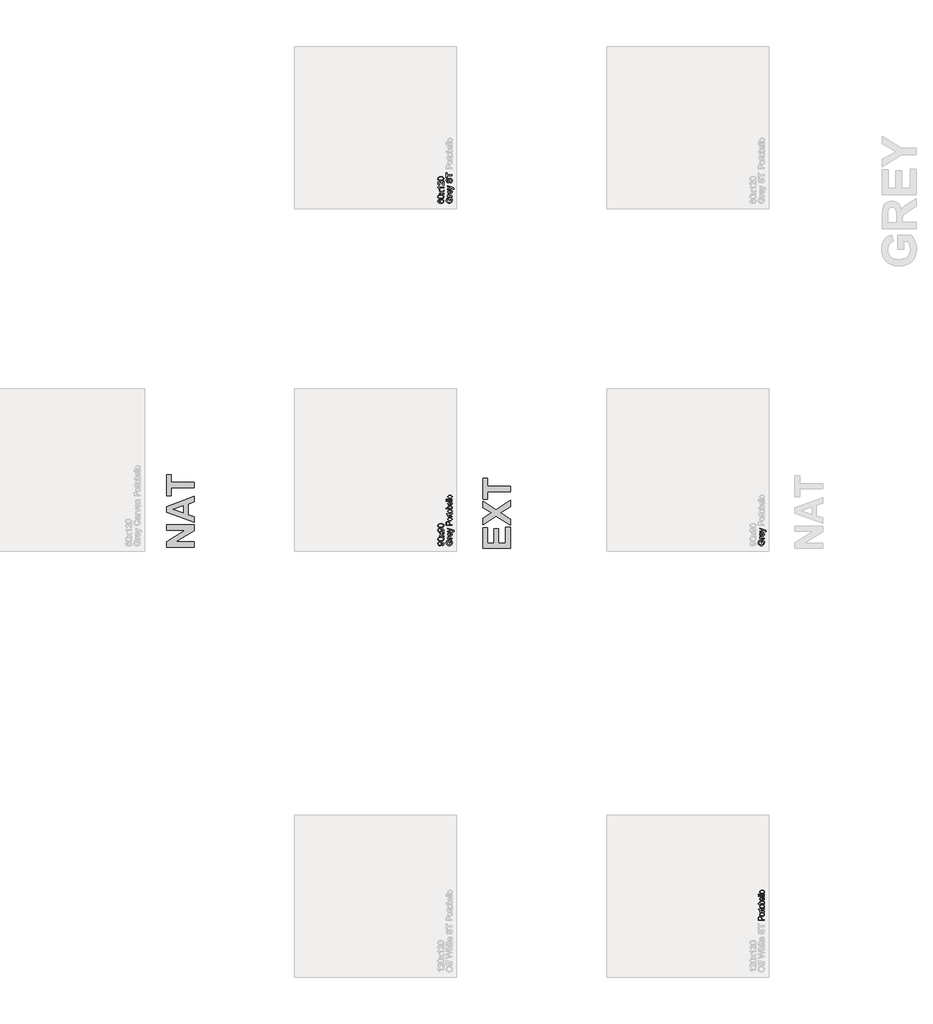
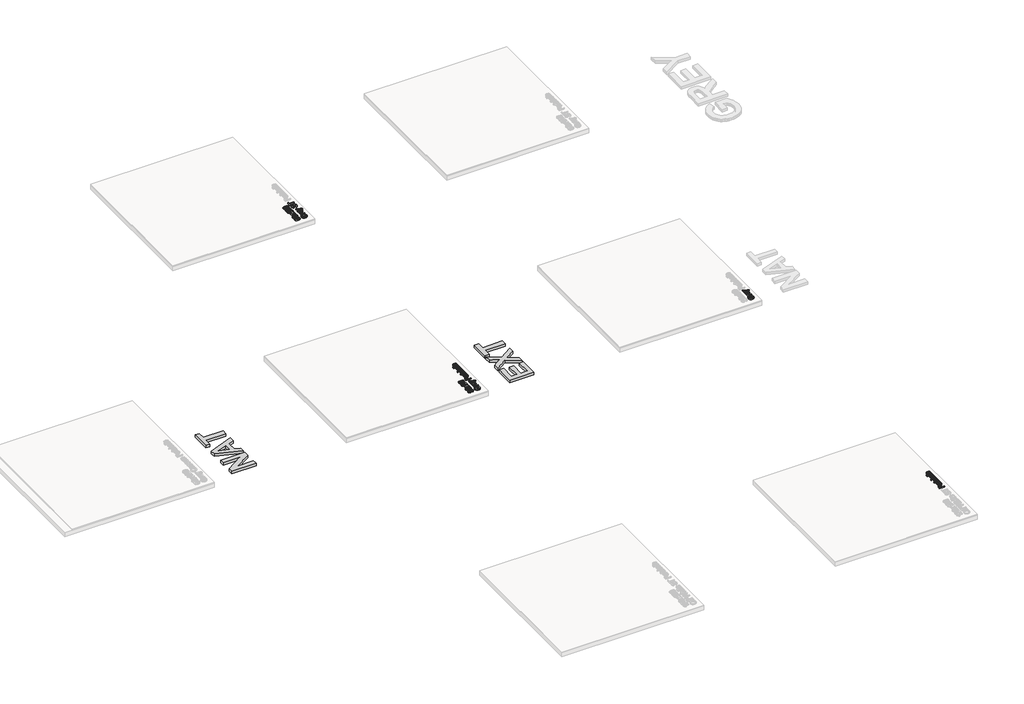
# One storey, part 9 of 12: 9 proxies.
"""IFC4 building model written with IfcOpenShell, lengths in millimetres."""

from ifc_helpers import new_model, si_unit, frame, origin, origin_with_axes, place, context, project, spatial, polyline, outline, extrude, element, save

model = new_model("IFC4")

# Units and contexts
model_context = context("Model", 3, world=origin())
ifc_project = project(units=[si_unit("LENGTHUNIT", "METRE", prefix="MILLI")], contexts=[model_context])

# Site, building, storey
site = spatial("IfcSite", under=ifc_project)
building = spatial("IfcBuilding", under=site)
storey = spatial("IfcBuildingStorey", under=building, Name="PORTOBELLO - SHOWROOM", Elevation=0.0)

# Proxies
placement = place(None, origin())
element("IfcBuildingElementProxy", 1, Name="10mm Arial", ObjectType="10mm Arial", at=placement, inside=storey, context=model_context, shape_type="SweptSolid", body=[
    extrude(outline(polyline([(-10923.8201342, 10095.7002457), (-10936.377173, 10095.7002457), (-10936.377173, 10136.5106217), (-10898.828684, 10136.5106217), (-10886.9828837, 10116.3629511), (-10883.0097582, 10095.0625836), (-10884.5885851, 10080.9757689), (-10889.3250658, 10068.2439862), (-10897.0536534, 10057.6673788), (-10907.6088009, 10050.0460901), (-10920.2700729, 10045.4383681), (-10934.3170338, 10043.9024608), (-10948.4651622, 10045.4322368), (-10961.6261406, 10050.0215647), (-10972.6656661, 10057.4803721), (-10980.449436, 10067.6185868), (-10985.066355, 10079.9671591), (-10986.605328, 10094.0570395), (-10983.0368727, 10113.701938), (-10973.1040588, 10127.4729874), (-10956.4880554, 10135.0636192), (-10953.2261683, 10123.4875991), (-10964.8389767, 10117.7609027), (-10971.534429, 10107.9752416), (-10974.0482893, 10093.8608358), (-10971.3382252, 10077.7843926), (-10964.22584, 10066.8460346), (-10954.5505435, 10060.3835742), (-10934.8320686, 10056.4594996), (-10912.9430899, 10061.1806518), (-10899.8464908, 10074.914913), (-10895.566797, 10094.0570395), (-10898.7918958, 10111.2371287), (-10905.6712891, 10123.953583), (-10923.8201342, 10123.953583), (-10923.8201342, 10095.7002457)])), frame((0.0, 0.0, 18.0), z_axis=(0.0, 0.0, 1.0), x_axis=(1.0, 0.0, 0.0)), (0.0, 0.0, 1.0), 20.0),
    extrude(outline(polyline([(-10884.579388, 10155.3461799), (-10958.3519908, 10155.3461799), (-10958.3519908, 10166.3335888), (-10947.4381583, 10166.3335888), (-10957.4935995, 10174.1326871), (-10959.9216207, 10181.9808363), (-10956.046597, 10194.586926), (-10944.7894079, 10190.3930713), (-10947.3645819, 10181.5639034), (-10944.8875098, 10174.4637809), (-10938.0203792, 10169.9388324), (-10923.3541503, 10167.9032186), (-10884.579388, 10167.9032186), (-10884.579388, 10155.3461799)])), frame((0.0, 0.0, 18.0), z_axis=(0.0, 0.0, 1.0), x_axis=(1.0, 0.0, 0.0)), (0.0, 0.0, 1.0), 20.0),
    extrude(outline(polyline([(-10906.5542059, 10254.0857074), (-10904.984576, 10266.3974915), (-10895.7078184, 10261.9614478), (-10888.7732428, 10254.882785), (-10884.4506293, 10245.3209189), (-10883.0097582, 10233.4352647), (-10885.4960273, 10218.7015908), (-10892.9548348, 10207.364694), (-10904.9018026, 10200.1358128), (-10920.8525528, 10197.7261857), (-10937.3397975, 10200.1603383), (-10949.6699757, 10207.4627959), (-10957.3587094, 10218.6464085), (-10959.9216207, 10232.7240262), (-10957.3648408, 10246.3632512), (-10949.6945012, 10257.2617553), (-10937.3888484, 10264.407863), (-10920.9261292, 10266.789899), (-10917.5416148, 10266.7163226), (-10917.5416148, 10210.2832245), (-10908.1422298, 10212.4567939), (-10901.2321797, 10217.5059743), (-10896.9831426, 10224.7931035), (-10895.566797, 10233.6805194), (-10898.1910219, 10245.9923035), (-10906.5542059, 10254.0857074)]), holes=[polyline([(-10930.0986536, 10210.2832245), (-10930.0986536, 10254.2328602), (-10941.47847, 10249.2051396), (-10945.8930539, 10241.8842879), (-10947.3645819, 10232.6749753), (-10942.6679551, 10217.2116687), (-10937.1773163, 10212.3464294), (-10930.0986536, 10210.2832245)])]), frame((0.0, 0.0, 18.0), z_axis=(0.0, 0.0, 1.0), x_axis=(1.0, 0.0, 0.0)), (0.0, 0.0, 1.0), 20.0),
    extrude(outline(polyline([(-10856.3260508, 10279.3469377), (-10868.4171057, 10277.7773079), (-10867.3134597, 10284.1539291), (-10868.6991486, 10290.1136174), (-10872.5619095, 10293.7679119), (-10881.8080103, 10297.2014772), (-10884.8491682, 10298.1824959), (-10958.3519908, 10271.4987885), (-10958.3519908, 10284.7180149), (-10917.3699365, 10298.8937344), (-10900.986925, 10303.8233531), (-10915.4814756, 10308.7529719), (-10958.3519908, 10323.2965734), (-10958.3519908, 10336.4176979), (-10882.8135545, 10310.7395346), (-10866.4305429, 10304.0686078), (-10857.5768496, 10296.7845443), (-10854.756421, 10287.0234087), (-10856.3260508, 10279.3469377)])), frame((0.0, 0.0, 18.0), z_axis=(0.0, 0.0, 1.0), x_axis=(1.0, 0.0, 0.0)), (0.0, 0.0, 1.0), 20.0),
])
element("IfcBuildingElementProxy", 2, Name="10mm Arial", ObjectType="10mm Arial", at=placement, inside=storey, context=model_context, shape_type="SweptSolid", body=[
    extrude(outline(polyline([(-11049.6934656, 10045.4720907), (-11051.2630954, 10058.0291294), (-11039.2824051, 10063.6699867), (-11035.566797, 10074.36309), (-11037.9580299, 10084.5288958), (-11044.3469139, 10091.4205519), (-11055.2607464, 10095.5285675), (-11069.8288734, 10097.343452), (-11072.2814201, 10097.2698756), (-11062.7655391, 10087.2266971), (-11059.1112447, 10073.4556478), (-11061.3430621, 10062.0053207), (-11068.0385144, 10052.4741113), (-11078.3821298, 10046.0453734), (-11091.5584366, 10043.9024608), (-11105.1700704, 10046.1496067), (-11115.8386483, 10052.8910442), (-11122.7364357, 10063.0169961), (-11125.0356982, 10075.4176851), (-11119.7872484, 10093.3090128), (-11104.8267139, 10105.6207969), (-11076.7205295, 10109.8269143), (-11046.2231121, 10105.6330596), (-11036.2320502, 10100.4183323), (-11028.944921, 10093.16186), (-11024.4935489, 10084.1763422), (-11023.0097582, 10073.7744788), (-11024.7602634, 10063.0384559), (-11030.0117788, 10054.4729368), (-11038.4332108, 10048.4825916), (-11049.6934656, 10045.4720907)]), holes=[polyline([(-11091.8527422, 10097.2698756), (-11100.363079, 10095.9148436), (-11106.9113786, 10091.8497475), (-11111.0868392, 10085.5405713), (-11112.4786594, 10077.4532988), (-11110.9795403, 10069.0655893), (-11106.4821829, 10062.3456115), (-11099.5997239, 10057.9310276), (-11090.9453, 10056.4594996), (-11083.1860556, 10057.8513198), (-11077.0270978, 10062.0267804), (-11073.007987, 10068.5812113), (-11071.6682834, 10077.1099422), (-11077.0270978, 10091.5922301), (-11083.4129161, 10095.8504642), (-11091.8527422, 10097.2698756)])]), frame((0.0, 0.0, 18.0), z_axis=(0.0, 0.0, 1.0), x_axis=(1.0, 0.0, 0.0)), (0.0, 0.0, 1.0), 20.0),
    extrude(outline(polyline([(-11073.9982027, 10120.8143233), (-11102.9014648, 10124.505406), (-11119.5665192, 10135.4682894), (-11125.0356982, 10153.77655), (-11121.7983366, 10168.4427789), (-11112.4663967, 10178.5717965), (-11097.6039641, 10184.4579084), (-11073.9982027, 10186.7387768), (-11045.217568, 10183.0844823), (-11028.5157254, 10172.1583871), (-11024.38625, 10163.9270274), (-11023.0097582, 10153.77655), (-11025.4009912, 10140.7290019), (-11032.5746901, 10130.8207135), (-11049.5647069, 10123.3159208), (-11073.9982027, 10120.8143233)]), holes=[polyline([(-11074.0227282, 10133.371362), (-11054.2705307, 10134.84289), (-11042.8385977, 10139.257474), (-11037.3847472, 10145.8302989), (-11035.566797, 10153.77655), (-11037.3908785, 10161.7228011), (-11042.8631232, 10168.2956261), (-11054.3011876, 10172.7102101), (-11074.0227282, 10174.181738), (-11093.3304016, 10172.759261), (-11104.8512394, 10168.4918298), (-11110.5718044, 10161.9312676), (-11112.4786594, 10153.6293972), (-11110.798665, 10145.7689853), (-11105.7586816, 10139.4536777), (-11093.5204739, 10134.8919409), (-11074.0227282, 10133.371362)])]), frame((0.0, 0.0, 18.0), z_axis=(0.0, 0.0, 1.0), x_axis=(1.0, 0.0, 0.0)), (0.0, 0.0, 1.0), 20.0),
    extrude(outline(polyline([(-11024.579388, 10193.0172962), (-11061.6864186, 10219.8481564), (-11098.3519908, 10194.586926), (-11098.3519908, 10209.6455624), (-11080.6691296, 10221.8347191), (-11072.3549965, 10227.5491528), (-11079.1730761, 10232.503297), (-11098.3519908, 10246.384711), (-11098.3519908, 10261.4923982), (-11061.6618932, 10234.9558436), (-11024.579388, 10260.5113796), (-11024.579388, 10245.4282178), (-11046.8975624, 10230.0262249), (-11050.9933153, 10227.2303217), (-11024.579388, 10208.1249835), (-11024.579388, 10193.0172962)])), frame((0.0, 0.0, 18.0), z_axis=(0.0, 0.0, 1.0), x_axis=(1.0, 0.0, 0.0)), (0.0, 0.0, 1.0), 20.0),
    extrude(outline(polyline([(-11049.6934656, 10269.9291586), (-11051.2630954, 10282.4861974), (-11039.2824051, 10288.1270547), (-11035.566797, 10298.820158), (-11037.9580299, 10308.9859638), (-11044.3469139, 10315.8776198), (-11055.2607464, 10319.9856355), (-11069.8288734, 10321.80052), (-11072.2814201, 10321.7269436), (-11062.7655391, 10311.6837651), (-11059.1112447, 10297.9127157), (-11061.3430621, 10286.4623886), (-11068.0385144, 10276.9311793), (-11078.3821298, 10270.5024414), (-11091.5584366, 10268.3595288), (-11105.1700704, 10270.6066747), (-11115.8386483, 10277.3481122), (-11122.7364357, 10287.4740641), (-11125.0356982, 10299.8747531), (-11119.7872484, 10317.7660808), (-11104.8267139, 10330.0778649), (-11076.7205295, 10334.2839823), (-11046.2231121, 10330.0901276), (-11036.2320502, 10324.8754003), (-11028.944921, 10317.618928), (-11024.4935489, 10308.6334102), (-11023.0097582, 10298.2315468), (-11024.7602634, 10287.4955239), (-11030.0117788, 10278.9300048), (-11038.4332108, 10272.9396596), (-11049.6934656, 10269.9291586)]), holes=[polyline([(-11091.8527422, 10321.7269436), (-11100.363079, 10320.3719116), (-11106.9113786, 10316.3068155), (-11111.0868392, 10309.9976393), (-11112.4786594, 10301.9103668), (-11110.9795403, 10293.5226573), (-11106.4821829, 10286.8026795), (-11099.5997239, 10282.3880955), (-11090.9453, 10280.9165676), (-11083.1860556, 10282.3083878), (-11077.0270978, 10286.4838484), (-11073.007987, 10293.0382793), (-11071.6682834, 10301.5670102), (-11077.0270978, 10316.0492981), (-11083.4129161, 10320.3075322), (-11091.8527422, 10321.7269436)])]), frame((0.0, 0.0, 18.0), z_axis=(0.0, 0.0, 1.0), x_axis=(1.0, 0.0, 0.0)), (0.0, 0.0, 1.0), 20.0),
    extrude(outline(polyline([(-11073.9982027, 10345.2713913), (-11102.9014648, 10348.9624739), (-11119.5665192, 10359.9253574), (-11125.0356982, 10378.233618), (-11121.7983366, 10392.8998469), (-11112.4663967, 10403.0288645), (-11097.6039641, 10408.9149764), (-11073.9982027, 10411.1958448), (-11045.217568, 10407.5415503), (-11028.5157254, 10396.6154551), (-11024.38625, 10388.3840954), (-11023.0097582, 10378.233618), (-11025.4009912, 10365.1860699), (-11032.5746901, 10355.2777815), (-11049.5647069, 10347.7729888), (-11073.9982027, 10345.2713913)]), holes=[polyline([(-11074.0227282, 10357.82843), (-11054.2705307, 10359.299958), (-11042.8385977, 10363.7145419), (-11037.3847472, 10370.2873669), (-11035.566797, 10378.233618), (-11037.3908785, 10386.1798691), (-11042.8631232, 10392.7526941), (-11054.3011876, 10397.167278), (-11074.0227282, 10398.638806), (-11093.3304016, 10397.216329), (-11104.8512394, 10392.9488978), (-11110.5718044, 10386.3883356), (-11112.4786594, 10378.0864652), (-11110.798665, 10370.2260533), (-11105.7586816, 10363.9107457), (-11093.5204739, 10359.3490089), (-11074.0227282, 10357.82843)])]), frame((0.0, 0.0, 18.0), z_axis=(0.0, 0.0, 1.0), x_axis=(1.0, 0.0, 0.0)), (0.0, 0.0, 1.0), 20.0),
])
element("IfcBuildingElementProxy", 3, Name="10mm Arial", ObjectType="10mm Arial", at=placement, inside=storey, context=model_context, shape_type="SweptSolid", body=[
    extrude(outline(polyline([(-5723.7951181, 10095.7002457), (-5736.3521569, 10095.7002457), (-5736.3521569, 10136.5106217), (-5698.8036679, 10136.5106217), (-5686.9578677, 10116.3629511), (-5682.9847421, 10095.0625836), (-5684.563569, 10080.9757689), (-5689.3000497, 10068.2439862), (-5697.0286373, 10057.6673788), (-5707.5837849, 10050.0460901), (-5720.2450569, 10045.4383681), (-5734.2920177, 10043.9024608), (-5748.4401461, 10045.4322368), (-5761.6011245, 10050.0215647), (-5772.64065, 10057.4803721), (-5780.4244199, 10067.6185868), (-5785.0413389, 10079.9671591), (-5786.580312, 10094.0570395), (-5783.0118566, 10113.701938), (-5773.0790427, 10127.4729874), (-5756.4630393, 10135.0636192), (-5753.2011523, 10123.4875991), (-5764.8139606, 10117.7609027), (-5771.5094129, 10107.9752416), (-5774.0232732, 10093.8608358), (-5771.3132092, 10077.7843926), (-5764.2008239, 10066.8460346), (-5754.5255274, 10060.3835742), (-5734.8070525, 10056.4594996), (-5712.9180738, 10061.1806518), (-5699.8214748, 10074.914913), (-5695.5417809, 10094.0570395), (-5698.7668797, 10111.2371287), (-5705.646273, 10123.953583), (-5723.7951181, 10123.953583), (-5723.7951181, 10095.7002457)])), frame((0.0, 0.0, 18.0), z_axis=(0.0, 0.0, 1.0), x_axis=(1.0, 0.0, 0.0)), (0.0, 0.0, 1.0), 20.0),
    extrude(outline(polyline([(-5684.554372, 10155.3461799), (-5758.3269747, 10155.3461799), (-5758.3269747, 10166.3335888), (-5747.4131422, 10166.3335888), (-5757.4685834, 10174.1326871), (-5759.8966046, 10181.9808363), (-5756.0215809, 10194.586926), (-5744.7643918, 10190.3930713), (-5747.3395658, 10181.5639034), (-5744.8624937, 10174.4637809), (-5737.9953631, 10169.9388324), (-5723.3291342, 10167.9032186), (-5684.554372, 10167.9032186), (-5684.554372, 10155.3461799)])), frame((0.0, 0.0, 18.0), z_axis=(0.0, 0.0, 1.0), x_axis=(1.0, 0.0, 0.0)), (0.0, 0.0, 1.0), 20.0),
    extrude(outline(polyline([(-5706.5291898, 10254.0857074), (-5704.95956, 10266.3974915), (-5695.6828023, 10261.9614478), (-5688.7482267, 10254.882785), (-5684.4256133, 10245.3209189), (-5682.9847421, 10233.4352647), (-5685.4710113, 10218.7015908), (-5692.9298187, 10207.364694), (-5704.8767865, 10200.1358128), (-5720.8275367, 10197.7261857), (-5737.3147814, 10200.1603383), (-5749.6449596, 10207.4627959), (-5757.3336933, 10218.6464085), (-5759.8966046, 10232.7240262), (-5757.3398247, 10246.3632512), (-5749.6694851, 10257.2617553), (-5737.3638324, 10264.407863), (-5720.9011131, 10266.789899), (-5717.5165987, 10266.7163226), (-5717.5165987, 10210.2832245), (-5708.1172137, 10212.4567939), (-5701.2071636, 10217.5059743), (-5696.9581266, 10224.7931035), (-5695.5417809, 10233.6805194), (-5698.1660058, 10245.9923035), (-5706.5291898, 10254.0857074)]), holes=[polyline([(-5730.0736375, 10210.2832245), (-5730.0736375, 10254.2328602), (-5741.4534539, 10249.2051396), (-5745.8680378, 10241.8842879), (-5747.3395658, 10232.6749753), (-5742.642939, 10217.2116687), (-5737.1523002, 10212.3464294), (-5730.0736375, 10210.2832245)])]), frame((0.0, 0.0, 18.0), z_axis=(0.0, 0.0, 1.0), x_axis=(1.0, 0.0, 0.0)), (0.0, 0.0, 1.0), 20.0),
    extrude(outline(polyline([(-5656.3010347, 10279.3469377), (-5668.3920896, 10277.7773079), (-5667.2884437, 10284.1539291), (-5668.6741325, 10290.1136174), (-5672.5368934, 10293.7679119), (-5681.7829943, 10297.2014772), (-5684.8241521, 10298.1824959), (-5758.3269747, 10271.4987885), (-5758.3269747, 10284.7180149), (-5717.3449205, 10298.8937344), (-5700.9619089, 10303.8233531), (-5715.4564596, 10308.7529719), (-5758.3269747, 10323.2965734), (-5758.3269747, 10336.4176979), (-5682.7885384, 10310.7395346), (-5666.4055269, 10304.0686078), (-5657.5518335, 10296.7845443), (-5654.7314049, 10287.0234087), (-5656.3010347, 10279.3469377)])), frame((0.0, 0.0, 18.0), z_axis=(0.0, 0.0, 1.0), x_axis=(1.0, 0.0, 0.0)), (0.0, 0.0, 1.0), 20.0),
])
element("IfcBuildingElementProxy", 4, Name="10mm Arial", ObjectType="10mm Arial", at=placement, inside=storey, context=model_context, shape_type="SweptSolid", body=[
    extrude(outline(polyline([(-10923.8201342, 15795.7002457), (-10936.377173, 15795.7002457), (-10936.377173, 15836.5106217), (-10898.828684, 15836.5106217), (-10886.9828837, 15816.3629511), (-10883.0097582, 15795.0625836), (-10884.5885851, 15780.9757689), (-10889.3250658, 15768.2439862), (-10897.0536534, 15757.6673788), (-10907.6088009, 15750.0460901), (-10920.2700729, 15745.4383681), (-10934.3170338, 15743.9024608), (-10948.4651622, 15745.4322368), (-10961.6261406, 15750.0215647), (-10972.6656661, 15757.4803721), (-10980.449436, 15767.6185868), (-10985.066355, 15779.9671591), (-10986.605328, 15794.0570395), (-10983.0368727, 15813.701938), (-10973.1040588, 15827.4729874), (-10956.4880554, 15835.0636192), (-10953.2261683, 15823.4875991), (-10964.8389767, 15817.7609027), (-10971.534429, 15807.9752416), (-10974.0482893, 15793.8608358), (-10971.3382252, 15777.7843926), (-10964.22584, 15766.8460346), (-10954.5505435, 15760.3835742), (-10934.8320686, 15756.4594996), (-10912.9430899, 15761.1806518), (-10899.8464908, 15774.914913), (-10895.566797, 15794.0570395), (-10898.7918958, 15811.2371287), (-10905.6712891, 15823.953583), (-10923.8201342, 15823.953583), (-10923.8201342, 15795.7002457)])), frame((0.0, 0.0, 19.0), z_axis=(0.0, 0.0, 1.0), x_axis=(1.0, 0.0, 0.0)), (0.0, 0.0, 1.0), 20.0),
    extrude(outline(polyline([(-10884.579388, 15855.3461799), (-10958.3519908, 15855.3461799), (-10958.3519908, 15866.3335888), (-10947.4381583, 15866.3335888), (-10957.4935995, 15874.1326871), (-10959.9216207, 15881.9808363), (-10956.046597, 15894.586926), (-10944.7894079, 15890.3930713), (-10947.3645819, 15881.5639034), (-10944.8875098, 15874.4637809), (-10938.0203792, 15869.9388324), (-10923.3541503, 15867.9032186), (-10884.579388, 15867.9032186), (-10884.579388, 15855.3461799)])), frame((0.0, 0.0, 19.0), z_axis=(0.0, 0.0, 1.0), x_axis=(1.0, 0.0, 0.0)), (0.0, 0.0, 1.0), 20.0),
    extrude(outline(polyline([(-10906.5542059, 15954.0857074), (-10904.984576, 15966.3974915), (-10895.7078184, 15961.9614478), (-10888.7732428, 15954.882785), (-10884.4506293, 15945.3209189), (-10883.0097582, 15933.4352647), (-10885.4960273, 15918.7015908), (-10892.9548348, 15907.364694), (-10904.9018026, 15900.1358128), (-10920.8525528, 15897.7261857), (-10937.3397975, 15900.1603383), (-10949.6699757, 15907.4627959), (-10957.3587094, 15918.6464085), (-10959.9216207, 15932.7240262), (-10957.3648408, 15946.3632512), (-10949.6945012, 15957.2617553), (-10937.3888484, 15964.407863), (-10920.9261292, 15966.789899), (-10917.5416148, 15966.7163226), (-10917.5416148, 15910.2832245), (-10908.1422298, 15912.4567939), (-10901.2321797, 15917.5059743), (-10896.9831426, 15924.7931035), (-10895.566797, 15933.6805194), (-10898.1910219, 15945.9923035), (-10906.5542059, 15954.0857074)]), holes=[polyline([(-10930.0986536, 15910.2832245), (-10930.0986536, 15954.2328602), (-10941.47847, 15949.2051396), (-10945.8930539, 15941.8842879), (-10947.3645819, 15932.6749753), (-10942.6679551, 15917.2116687), (-10937.1773163, 15912.3464294), (-10930.0986536, 15910.2832245)])]), frame((0.0, 0.0, 19.0), z_axis=(0.0, 0.0, 1.0), x_axis=(1.0, 0.0, 0.0)), (0.0, 0.0, 1.0), 20.0),
    extrude(outline(polyline([(-10856.3260508, 15979.3469377), (-10868.4171057, 15977.7773079), (-10867.3134597, 15984.1539291), (-10868.6991486, 15990.1136174), (-10872.5619095, 15993.7679119), (-10881.8080103, 15997.2014772), (-10884.8491682, 15998.1824959), (-10958.3519908, 15971.4987885), (-10958.3519908, 15984.7180149), (-10917.3699365, 15998.8937344), (-10900.986925, 16003.8233531), (-10915.4814756, 16008.7529719), (-10958.3519908, 16023.2965734), (-10958.3519908, 16036.4176979), (-10882.8135545, 16010.7395346), (-10866.4305429, 16004.0686078), (-10857.5768496, 15996.7845443), (-10854.756421, 15987.0234087), (-10856.3260508, 15979.3469377)])), frame((0.0, 0.0, 19.0), z_axis=(0.0, 0.0, 1.0), x_axis=(1.0, 0.0, 0.0)), (0.0, 0.0, 1.0), 20.0),
    extrude(outline(polyline([(-10919.1112447, 16082.9425076), (-10919.1112447, 16095.4995463), (-10906.5419432, 16099.5462483), (-10898.5956921, 16109.4300112), (-10895.566797, 16124.4886476), (-10897.8599281, 16137.609772), (-10904.1629729, 16146.0833207), (-10912.5874706, 16148.8669611), (-10920.4233571, 16146.7822965), (-10926.125528, 16138.2474342), (-10930.9202567, 16119.963699), (-10937.112937, 16100.2820123), (-10946.4571396, 16089.6011717), (-10958.940602, 16086.0817673), (-10973.1531097, 16090.4350375), (-10983.1840255, 16103.1514918), (-10986.605328, 16121.7663208), (-10983.0246099, 16141.6319485), (-10972.5031849, 16154.8757004), (-10956.782361, 16159.85437), (-10956.782361, 16147.2973313), (-10964.2748909, 16144.9919374), (-10969.6827563, 16140.184946), (-10974.0482893, 16122.2568301), (-10969.7318072, 16104.2796633), (-10959.308484, 16098.638806), (-10950.6019434, 16102.636457), (-10943.5876601, 16123.1397469), (-10937.2846152, 16145.3598194), (-10927.1065467, 16157.512188), (-10912.9063017, 16161.4239999), (-10897.8844535, 16156.9235768), (-10886.9215701, 16143.9741306), (-10883.0097582, 16124.9791569), (-10887.2281384, 16102.5506179), (-10899.93233, 16088.3626356), (-10919.1112447, 16082.9425076)])), frame((0.0, 0.0, 19.0), z_axis=(0.0, 0.0, 1.0), x_axis=(1.0, 0.0, 0.0)), (0.0, 0.0, 1.0), 20.0),
    extrude(outline(polyline([(-10884.579388, 16205.3736356), (-10972.4786594, 16205.3736356), (-10972.4786594, 16172.4114088), (-10985.0356982, 16172.4114088), (-10985.0356982, 16250.8929011), (-10972.4786594, 16250.8929011), (-10972.4786594, 16217.9306743), (-10884.579388, 16217.9306743), (-10884.579388, 16205.3736356)])), frame((0.0, 0.0, 19.0), z_axis=(0.0, 0.0, 1.0), x_axis=(1.0, 0.0, 0.0)), (0.0, 0.0, 1.0), 20.0),
])
element("IfcBuildingElementProxy", 5, Name="10mm Arial", ObjectType="10mm Arial", at=placement, inside=storey, context=model_context, shape_type="SweptSolid", body=[
    extrude(outline(polyline([(-11098.3519908, 15808.2572845), (-11096.782361, 15795.7002457), (-11107.2547351, 15790.9423053), (-11112.4786594, 15778.360741), (-11109.4375016, 15767.0299756), (-11098.020897, 15758.4583251), (-11075.641409, 15754.8898697), (-11085.660062, 15765.9631178), (-11088.9342117, 15779.6851162), (-11086.6962629, 15791.2856618), (-11079.9824165, 15801.0222719), (-11069.7246402, 15807.6257537), (-11056.8549018, 15809.8269143), (-11039.5276598, 15805.6821105), (-11027.2649266, 15794.2777687), (-11023.0097582, 15777.8211808), (-11025.8301868, 15763.5749505), (-11034.2914727, 15752.2288566), (-11049.2274817, 15744.8068374), (-11071.4720797, 15742.332831), (-11096.481924, 15745.0796832), (-11113.5823054, 15753.3202399), (-11122.17235, 15764.5712976), (-11125.0356982, 15779.1455559), (-11123.2637332, 15790.1636217), (-11117.9478384, 15798.9866582), (-11109.5049466, 15805.1670757), (-11098.3519908, 15808.2572845)]), holes=[polyline([(-11057.0511055, 15754.8898697), (-11046.1740612, 15757.7961375), (-11038.276861, 15765.5216594), (-11035.566797, 15776.8401621), (-11036.9708799, 15785.1267041), (-11041.1831288, 15791.641281), (-11047.8050047, 15795.8627269), (-11056.4379688, 15797.2698756), (-11064.7245108, 15795.881121), (-11071.042884, 15791.7148574), (-11075.0436007, 15785.0899159), (-11076.377173, 15776.3251273), (-11071.042884, 15761.1316009), (-11064.8777949, 15756.4503025), (-11057.0511055, 15754.8898697)])]), frame((0.0, 0.0, 19.0), z_axis=(0.0, 0.0, 1.0), x_axis=(1.0, 0.0, 0.0)), (0.0, 0.0, 1.0), 20.0),
    extrude(outline(polyline([(-11073.9982027, 15820.8143233), (-11102.9014648, 15824.505406), (-11119.5665192, 15835.4682894), (-11125.0356982, 15853.77655), (-11121.7983366, 15868.4427789), (-11112.4663967, 15878.5717965), (-11097.6039641, 15884.4579084), (-11073.9982027, 15886.7387768), (-11045.217568, 15883.0844823), (-11028.5157254, 15872.1583871), (-11024.38625, 15863.9270274), (-11023.0097582, 15853.77655), (-11025.4009912, 15840.7290019), (-11032.5746901, 15830.8207135), (-11049.5647069, 15823.3159208), (-11073.9982027, 15820.8143233)]), holes=[polyline([(-11074.0227282, 15833.371362), (-11054.2705307, 15834.84289), (-11042.8385977, 15839.257474), (-11037.3847472, 15845.8302989), (-11035.566797, 15853.77655), (-11037.3908785, 15861.7228011), (-11042.8631232, 15868.2956261), (-11054.3011876, 15872.7102101), (-11074.0227282, 15874.181738), (-11093.3304016, 15872.759261), (-11104.8512394, 15868.4918298), (-11110.5718044, 15861.9312676), (-11112.4786594, 15853.6293972), (-11110.798665, 15845.7689853), (-11105.7586816, 15839.4536777), (-11093.5204739, 15834.8919409), (-11074.0227282, 15833.371362)])]), frame((0.0, 0.0, 19.0), z_axis=(0.0, 0.0, 1.0), x_axis=(1.0, 0.0, 0.0)), (0.0, 0.0, 1.0), 20.0),
    extrude(outline(polyline([(-11024.579388, 15893.0172962), (-11061.6864186, 15919.8481564), (-11098.3519908, 15894.586926), (-11098.3519908, 15909.6455624), (-11080.6691296, 15921.8347191), (-11072.3549965, 15927.5491528), (-11079.1730761, 15932.503297), (-11098.3519908, 15946.384711), (-11098.3519908, 15961.4923982), (-11061.6618932, 15934.9558436), (-11024.579388, 15960.5113796), (-11024.579388, 15945.4282178), (-11046.8975624, 15930.0262249), (-11050.9933153, 15927.2303217), (-11024.579388, 15908.1249835), (-11024.579388, 15893.0172962)])), frame((0.0, 0.0, 19.0), z_axis=(0.0, 0.0, 1.0), x_axis=(1.0, 0.0, 0.0)), (0.0, 0.0, 1.0), 20.0),
    extrude(outline(polyline([(-11024.579388, 16015.4484242), (-11024.579388, 16002.8913854), (-11102.8646766, 16002.8913854), (-11094.391128, 15990.9965342), (-11088.0512949, 15977.7773079), (-11099.9216207, 15977.7773079), (-11111.669319, 15996.1836704), (-11125.0356982, 16007.3550203), (-11125.0356982, 16015.4484242), (-11024.579388, 16015.4484242)])), frame((0.0, 0.0, 19.0), z_axis=(0.0, 0.0, 1.0), x_axis=(1.0, 0.0, 0.0)), (0.0, 0.0, 1.0), 20.0),
    extrude(outline(polyline([(-11037.1364268, 16109.6262149), (-11024.579388, 16109.6262149), (-11024.579388, 16043.7017614), (-11033.2368777, 16045.0506621), (-11046.5664686, 16052.6903448), (-11061.1223329, 16068.4234315), (-11082.0425557, 16090.091681), (-11096.2673262, 16095.4995463), (-11107.7820326, 16090.3859866), (-11112.4786594, 16077.0318702), (-11107.8923972, 16063.113668), (-11095.2127311, 16057.82843), (-11096.782361, 16045.2713913), (-11108.9285982, 16048.3156148), (-11117.8006856, 16054.8976368), (-11123.226945, 16064.6741008), (-11125.0356982, 16077.3016503), (-11123.0246099, 16090.0211703), (-11116.9913452, 16099.7792402), (-11107.9782363, 16105.9872489), (-11097.0276156, 16108.0565851), (-11085.1205017, 16105.8247677), (-11072.8087176, 16098.4058141), (-11055.604103, 16080.4163845), (-11043.5253108, 16065.9708849), (-11037.1364268, 16060.3055021), (-11037.1364268, 16109.6262149)])), frame((0.0, 0.0, 19.0), z_axis=(0.0, 0.0, 1.0), x_axis=(1.0, 0.0, 0.0)), (0.0, 0.0, 1.0), 20.0),
    extrude(outline(polyline([(-11073.9982027, 16122.1832537), (-11102.9014648, 16125.8743364), (-11119.5665192, 16136.8372199), (-11125.0356982, 16155.1454805), (-11121.7983366, 16169.8117094), (-11112.4663967, 16179.940727), (-11097.6039641, 16185.8268389), (-11073.9982027, 16188.1077073), (-11045.217568, 16184.4534128), (-11028.5157254, 16173.5273175), (-11024.38625, 16165.2959579), (-11023.0097582, 16155.1454805), (-11025.4009912, 16142.0979324), (-11032.5746901, 16132.189644), (-11049.5647069, 16124.6848513), (-11073.9982027, 16122.1832537)]), holes=[polyline([(-11074.0227282, 16134.7402925), (-11054.2705307, 16136.2118205), (-11042.8385977, 16140.6264044), (-11037.3847472, 16147.1992294), (-11035.566797, 16155.1454805), (-11037.3908785, 16163.0917316), (-11042.8631232, 16169.6645566), (-11054.3011876, 16174.0791405), (-11074.0227282, 16175.5506685), (-11093.3304016, 16174.1281914), (-11104.8512394, 16169.8607603), (-11110.5718044, 16163.300198), (-11112.4786594, 16154.9983277), (-11110.798665, 16147.1379157), (-11105.7586816, 16140.8226081), (-11093.5204739, 16136.2608714), (-11074.0227282, 16134.7402925)])]), frame((0.0, 0.0, 19.0), z_axis=(0.0, 0.0, 1.0), x_axis=(1.0, 0.0, 0.0)), (0.0, 0.0, 1.0), 20.0),
])
element("IfcBuildingElementProxy", 6, Name="10mm Arial Narrow", ObjectType="10mm Arial Narrow", at=placement, inside=storey, context=model_context, shape_type="SweptSolid", body=[
    extrude(outline(polyline([(-5684.554372, 3803.3301461), (-5785.2729757, 3803.3301461), (-5785.2729757, 3834.6270308), (-5783.394655, 3850.9227323), (-5773.9142118, 3862.3957184), (-5756.895103, 3866.6853968), (-5744.8192774, 3864.8990884), (-5735.1928837, 3859.5401632), (-5728.8916253, 3849.7963744), (-5726.7912058, 3834.8554752), (-5726.7912058, 3813.0771077), (-5684.554372, 3813.0771077), (-5684.554372, 3803.3301461)]), holes=[polyline([(-5738.1626611, 3813.0771077), (-5738.1626611, 3836.0484627), (-5742.6934753, 3851.9126581), (-5756.362066, 3856.9384352), (-5766.5278424, 3854.4636207), (-5772.3277923, 3848.4859919), (-5773.9015204, 3835.8200183), (-5773.9015204, 3813.0771077), (-5738.1626611, 3813.0771077)])]), frame((0.0, 0.0, 17.0), z_axis=(0.0, 0.0, 1.0), x_axis=(1.0, 0.0, 0.0)), (0.0, 0.0, 1.0), 20.0),
    extrude(outline(polyline([(-5721.1054782, 3874.8078649), (-5737.6962537, 3876.7623337), (-5749.6483385, 3882.6257404), (-5756.8728931, 3891.4843071), (-5759.281078, 3902.4242562), (-5756.8728931, 3913.2372918), (-5749.6483385, 3922.1212412), (-5737.8866241, 3928.060796), (-5721.8669595, 3930.0406476), (-5704.705073, 3928.0956972), (-5692.5626178, 3922.2608461), (-5685.3380632, 3913.411798), (-5682.9298783, 3902.4242562), (-5685.3444089, 3891.563628), (-5692.5880005, 3882.6891971), (-5704.546431, 3876.7781979), (-5721.1054782, 3874.8078649)]), holes=[polyline([(-5721.1308609, 3884.5548265), (-5708.5791095, 3885.8588634), (-5699.7078514, 3889.770974), (-5694.4345929, 3895.6121707), (-5692.67684, 3902.7034661), (-5694.450457, 3909.4235392), (-5699.7713082, 3915.1156125), (-5708.6584304, 3918.9991676), (-5721.1308609, 3920.2936859), (-5733.6445382, 3918.9896491), (-5742.5031049, 3915.0775385), (-5747.7763635, 3909.2363417), (-5749.5341163, 3902.1450464), (-5747.7668449, 3895.3773806), (-5742.4650308, 3889.6948258), (-5733.5969456, 3885.8398263), (-5721.1308609, 3884.5548265)])]), frame((0.0, 0.0, 17.0), z_axis=(0.0, 0.0, 1.0), x_axis=(1.0, 0.0, 0.0)), (0.0, 0.0, 1.0), 20.0),
    extrude(outline(polyline([(-5692.67684, 4001.5183664), (-5682.9298783, 4003.14286), (-5682.9298783, 3995.7818733), (-5685.0493349, 3987.507109), (-5690.8492847, 3983.1920478), (-5705.4951099, 3982.0244431), (-5747.9096227, 3982.0244431), (-5747.9096227, 3973.901975), (-5751.1586099, 3973.901975), (-5746.2851291, 3972.2774814), (-5747.9096227, 3964.713433), (-5745.5871045, 3958.6342734), (-5739.1018214, 3954.7634097), (-5723.6945148, 3952.7835581), (-5684.554372, 3952.7835581), (-5684.554372, 3943.0365964), (-5757.6565844, 3943.0365964), (-5757.6565844, 3952.7835581), (-5747.9603881, 3952.7835581), (-5757.0473993, 3959.0277054), (-5759.281078, 3965.424149), (-5757.6565844, 3973.901975), (-5757.6565844, 3982.0244431), (-5773.9015204, 3982.0244431), (-5782.0239885, 3991.7714047), (-5757.6565844, 3991.7714047), (-5757.6565844, 4001.5183664), (-5747.9096227, 4001.5183664), (-5747.9096227, 3991.7714047), (-5703.2614312, 3991.7714047), (-5695.2658767, 3992.6344169), (-5692.67684, 3997.2540706), (-5692.67684, 4001.5183664)])), frame((0.0, 0.0, 17.0), z_axis=(0.0, 0.0, 1.0), x_axis=(1.0, 0.0, 0.0)), (0.0, 0.0, 1.0), 20.0),
    extrude(outline(polyline([(-5721.1054782, 4008.0163408), (-5737.6962537, 4009.9708097), (-5749.6483385, 4015.8342163), (-5756.8728931, 4024.692783), (-5759.281078, 4035.6327321), (-5756.8728931, 4046.4457677), (-5749.6483385, 4055.3297172), (-5737.8866241, 4061.2692719), (-5721.8669595, 4063.2491235), (-5704.705073, 4061.3041731), (-5692.5626178, 4055.4693221), (-5685.3380632, 4046.6202739), (-5682.9298783, 4035.6327321), (-5685.3444089, 4024.772104), (-5692.5880005, 4015.8976731), (-5704.546431, 4009.9866739), (-5721.1054782, 4008.0163408)]), holes=[polyline([(-5721.1308609, 4017.7633025), (-5708.5791095, 4019.0673393), (-5699.7078514, 4022.9794499), (-5694.4345929, 4028.8206466), (-5692.67684, 4035.911942), (-5694.450457, 4042.6320152), (-5699.7713082, 4048.3240885), (-5708.6584304, 4052.2076435), (-5721.1308609, 4053.5021618), (-5733.6445382, 4052.198125), (-5742.5031049, 4048.2860144), (-5747.7763635, 4042.4448177), (-5749.5341163, 4035.3535223), (-5747.7668449, 4028.5858566), (-5742.4650308, 4022.9033018), (-5733.5969456, 4019.0483023), (-5721.1308609, 4017.7633025)])]), frame((0.0, 0.0, 17.0), z_axis=(0.0, 0.0, 1.0), x_axis=(1.0, 0.0, 0.0)), (0.0, 0.0, 1.0), 20.0),
    extrude(outline(polyline([(-5684.554372, 4085.992034), (-5684.554372, 4076.2450724), (-5785.2729757, 4076.2450724), (-5785.2729757, 4085.992034), (-5749.8640916, 4085.992034), (-5756.9458684, 4093.3910948), (-5759.281078, 4102.5923281), (-5755.080239, 4115.4740548), (-5742.3508086, 4124.7514362), (-5721.6638978, 4128.2288679), (-5705.2095544, 4126.2966089), (-5693.0068153, 4120.4998319), (-5685.4491126, 4112.1267095), (-5682.9298783, 4102.4654145), (-5685.5442978, 4093.1245763), (-5693.3114078, 4085.992034), (-5684.554372, 4085.992034)]), holes=[polyline([(-5721.6638978, 4085.992034), (-5704.4163446, 4088.0734165), (-5695.6846915, 4093.9622058), (-5692.67684, 4102.4146491), (-5694.4663212, 4108.3573767), (-5699.834765, 4113.595734), (-5721.2577744, 4118.4819062), (-5742.6934753, 4113.773413), (-5747.8239561, 4108.52871), (-5749.5341163, 4102.2115874), (-5747.7446351, 4096.2339586), (-5742.3761914, 4090.941663), (-5721.6638978, 4085.992034)])]), frame((0.0, 0.0, 17.0), z_axis=(0.0, 0.0, 1.0), x_axis=(1.0, 0.0, 0.0)), (0.0, 0.0, 1.0), 20.0),
    extrude(outline(polyline([(-5707.2972825, 4180.2126633), (-5705.6727889, 4189.959625), (-5695.7862223, 4186.2600946), (-5688.6663714, 4180.4411078), (-5684.3640016, 4172.7374545), (-5682.9298783, 4163.3839249), (-5685.3444089, 4151.7903709), (-5692.5880005, 4142.6462486), (-5704.3941347, 4136.7066939), (-5720.4962931, 4134.7268423), (-5737.1632167, 4136.7162124), (-5749.343746, 4142.6843227), (-5756.796745, 4151.6983585), (-5759.281078, 4162.8255052), (-5756.8824116, 4173.5084544), (-5749.6864126, 4182.2559717), (-5737.946908, 4188.0908228), (-5721.917725, 4190.0357731), (-5718.6687377, 4189.959625), (-5718.6687377, 4144.4738039), (-5699.2255799, 4150.4768155), (-5694.314025, 4156.4068517), (-5692.67684, 4163.5108384), (-5696.3319506, 4173.6893062), (-5707.2972825, 4180.2126633)]), holes=[polyline([(-5728.4156994, 4145.1337545), (-5728.4156994, 4180.2126633), (-5742.6807839, 4175.9483676), (-5747.8207832, 4170.1230351), (-5749.5341163, 4162.9016533), (-5743.823006, 4150.6925685), (-5728.4156994, 4145.1337545)])]), frame((0.0, 0.0, 17.0), z_axis=(0.0, 0.0, 1.0), x_axis=(1.0, 0.0, 0.0)), (0.0, 0.0, 1.0), 20.0),
    extrude(outline(polyline([(-5684.554372, 4202.9555739), (-5785.2729757, 4202.9555739), (-5785.2729757, 4212.7025355), (-5684.554372, 4212.7025355), (-5684.554372, 4202.9555739)])), frame((0.0, 0.0, 17.0), z_axis=(0.0, 0.0, 1.0), x_axis=(1.0, 0.0, 0.0)), (0.0, 0.0, 1.0), 20.0),
    extrude(outline(polyline([(-5684.554372, 4228.9474716), (-5785.2729757, 4228.9474716), (-5785.2729757, 4238.6944333), (-5684.554372, 4238.6944333), (-5684.554372, 4228.9474716)])), frame((0.0, 0.0, 17.0), z_axis=(0.0, 0.0, 1.0), x_axis=(1.0, 0.0, 0.0)), (0.0, 0.0, 1.0), 20.0),
    extrude(outline(polyline([(-5721.1054782, 4250.0658885), (-5737.6962537, 4252.0203574), (-5749.6483385, 4257.883764), (-5756.8728931, 4266.7423307), (-5759.281078, 4277.6822799), (-5756.8728931, 4288.4953155), (-5749.6483385, 4297.3792649), (-5737.8866241, 4303.3188196), (-5721.8669595, 4305.2986712), (-5704.705073, 4303.3537209), (-5692.5626178, 4297.5188698), (-5685.3380632, 4288.6698216), (-5682.9298783, 4277.6822799), (-5685.3444089, 4266.8216517), (-5692.5880005, 4257.9472208), (-5704.546431, 4252.0362216), (-5721.1054782, 4250.0658885)]), holes=[polyline([(-5721.1308609, 4259.8128502), (-5708.5791095, 4261.116887), (-5699.7078514, 4265.0289976), (-5694.4345929, 4270.8701944), (-5692.67684, 4277.9614897), (-5694.450457, 4284.6815629), (-5699.7713082, 4290.3736362), (-5708.6584304, 4294.2571912), (-5721.1308609, 4295.5517096), (-5733.6445382, 4294.2476727), (-5742.5031049, 4290.3355621), (-5747.7763635, 4284.4943654), (-5749.5341163, 4277.40307), (-5747.7668449, 4270.6354043), (-5742.4650308, 4264.9528495), (-5733.5969456, 4261.09785), (-5721.1308609, 4259.8128502)])]), frame((0.0, 0.0, 17.0), z_axis=(0.0, 0.0, 1.0), x_axis=(1.0, 0.0, 0.0)), (0.0, 0.0, 1.0), 20.0),
])
element("IfcBuildingElementProxy", 7, Name="10mm Arial Narrow", ObjectType="10mm Arial Narrow", at=placement, inside=storey, context=model_context, shape_type="SweptSolid", body=[
    extrude(outline(polyline([(-10884.579388, 10383.3301461), (-10985.2979918, 10383.3301461), (-10985.2979918, 10414.6270308), (-10983.4196711, 10430.9227323), (-10973.9392279, 10442.3957184), (-10956.9201191, 10446.6853968), (-10944.8442935, 10444.8990884), (-10935.2178998, 10439.5401632), (-10928.9166413, 10429.7963744), (-10926.8162219, 10414.8554752), (-10926.8162219, 10393.0771077), (-10884.579388, 10393.0771077), (-10884.579388, 10383.3301461)]), holes=[polyline([(-10938.1876771, 10393.0771077), (-10938.1876771, 10416.0484627), (-10942.7184913, 10431.9126581), (-10956.3870821, 10436.9384352), (-10966.5528585, 10434.4636207), (-10972.3528083, 10428.4859919), (-10973.9265365, 10415.8200183), (-10973.9265365, 10393.0771077), (-10938.1876771, 10393.0771077)])]), frame((0.0, 0.0, 18.0), z_axis=(0.0, 0.0, 1.0), x_axis=(1.0, 0.0, 0.0)), (0.0, 0.0, 1.0), 20.0),
    extrude(outline(polyline([(-10921.1304942, 10454.8078649), (-10937.7212698, 10456.7623337), (-10949.6733546, 10462.6257404), (-10956.8979092, 10471.4843071), (-10959.3060941, 10482.4242562), (-10956.8979092, 10493.2372918), (-10949.6733546, 10502.1212412), (-10937.9116401, 10508.060796), (-10921.8919756, 10510.0406476), (-10904.730089, 10508.0956972), (-10892.5876339, 10502.2608461), (-10885.3630793, 10493.411798), (-10882.9548944, 10482.4242562), (-10885.369425, 10471.563628), (-10892.6130166, 10462.6891971), (-10904.5714471, 10456.7781979), (-10921.1304942, 10454.8078649)]), holes=[polyline([(-10921.155877, 10464.5548265), (-10908.6041256, 10465.8588634), (-10899.7328675, 10469.770974), (-10894.4596089, 10475.6121707), (-10892.7018561, 10482.7034661), (-10894.4754731, 10489.4235392), (-10899.7963243, 10495.1156125), (-10908.6834465, 10498.9991676), (-10921.155877, 10500.2936859), (-10933.6695543, 10498.9896491), (-10942.528121, 10495.0775385), (-10947.8013795, 10489.2363417), (-10949.5591324, 10482.1450464), (-10947.791861, 10475.3773806), (-10942.4900469, 10469.6948258), (-10933.6219617, 10465.8398263), (-10921.155877, 10464.5548265)])]), frame((0.0, 0.0, 18.0), z_axis=(0.0, 0.0, 1.0), x_axis=(1.0, 0.0, 0.0)), (0.0, 0.0, 1.0), 20.0),
    extrude(outline(polyline([(-10892.7018561, 10581.5183664), (-10882.9548944, 10583.14286), (-10882.9548944, 10575.7818733), (-10885.0743509, 10567.507109), (-10890.8743008, 10563.1920478), (-10905.520126, 10562.0244431), (-10947.9346388, 10562.0244431), (-10947.9346388, 10553.901975), (-10951.183626, 10553.901975), (-10946.3101452, 10552.2774814), (-10947.9346388, 10544.713433), (-10945.6121206, 10538.6342734), (-10939.1268375, 10534.7634097), (-10923.7195309, 10532.7835581), (-10884.579388, 10532.7835581), (-10884.579388, 10523.0365964), (-10957.6816004, 10523.0365964), (-10957.6816004, 10532.7835581), (-10947.9854042, 10532.7835581), (-10957.0724153, 10539.0277054), (-10959.3060941, 10545.424149), (-10957.6816004, 10553.901975), (-10957.6816004, 10562.0244431), (-10973.9265365, 10562.0244431), (-10982.0490046, 10571.7714047), (-10957.6816004, 10571.7714047), (-10957.6816004, 10581.5183664), (-10947.9346388, 10581.5183664), (-10947.9346388, 10571.7714047), (-10903.2864473, 10571.7714047), (-10895.2908928, 10572.6344169), (-10892.7018561, 10577.2540706), (-10892.7018561, 10581.5183664)])), frame((0.0, 0.0, 18.0), z_axis=(0.0, 0.0, 1.0), x_axis=(1.0, 0.0, 0.0)), (0.0, 0.0, 1.0), 20.0),
    extrude(outline(polyline([(-10921.1304942, 10588.0163408), (-10937.7212698, 10589.9708097), (-10949.6733546, 10595.8342163), (-10956.8979092, 10604.692783), (-10959.3060941, 10615.6327321), (-10956.8979092, 10626.4457677), (-10949.6733546, 10635.3297172), (-10937.9116401, 10641.2692719), (-10921.8919756, 10643.2491235), (-10904.730089, 10641.3041731), (-10892.5876339, 10635.4693221), (-10885.3630793, 10626.6202739), (-10882.9548944, 10615.6327321), (-10885.369425, 10604.772104), (-10892.6130166, 10595.8976731), (-10904.5714471, 10589.9866739), (-10921.1304942, 10588.0163408)]), holes=[polyline([(-10921.155877, 10597.7633025), (-10908.6041256, 10599.0673393), (-10899.7328675, 10602.9794499), (-10894.4596089, 10608.8206466), (-10892.7018561, 10615.911942), (-10894.4754731, 10622.6320152), (-10899.7963243, 10628.3240885), (-10908.6834465, 10632.2076435), (-10921.155877, 10633.5021618), (-10933.6695543, 10632.198125), (-10942.528121, 10628.2860144), (-10947.8013795, 10622.4448177), (-10949.5591324, 10615.3535223), (-10947.791861, 10608.5858566), (-10942.4900469, 10602.9033018), (-10933.6219617, 10599.0483023), (-10921.155877, 10597.7633025)])]), frame((0.0, 0.0, 18.0), z_axis=(0.0, 0.0, 1.0), x_axis=(1.0, 0.0, 0.0)), (0.0, 0.0, 1.0), 20.0),
    extrude(outline(polyline([(-10884.579388, 10665.992034), (-10884.579388, 10656.2450724), (-10985.2979918, 10656.2450724), (-10985.2979918, 10665.992034), (-10949.8891077, 10665.992034), (-10956.9708845, 10673.3910948), (-10959.3060941, 10682.5923281), (-10955.1052551, 10695.4740548), (-10942.3758247, 10704.7514362), (-10921.6889139, 10708.2288679), (-10905.2345705, 10706.2966089), (-10893.0318313, 10700.4998319), (-10885.4741287, 10692.1267095), (-10882.9548944, 10682.4654145), (-10885.5693138, 10673.1245763), (-10893.3364239, 10665.992034), (-10884.579388, 10665.992034)]), holes=[polyline([(-10921.6889139, 10665.992034), (-10904.4413607, 10668.0734165), (-10895.7097075, 10673.9622058), (-10892.7018561, 10682.4146491), (-10894.4913373, 10688.3573767), (-10899.859781, 10693.595734), (-10921.2827905, 10698.4819062), (-10942.7184913, 10693.773413), (-10947.8489721, 10688.52871), (-10949.5591324, 10682.2115874), (-10947.7696512, 10676.2339586), (-10942.4012074, 10670.941663), (-10921.6889139, 10665.992034)])]), frame((0.0, 0.0, 18.0), z_axis=(0.0, 0.0, 1.0), x_axis=(1.0, 0.0, 0.0)), (0.0, 0.0, 1.0), 20.0),
    extrude(outline(polyline([(-10907.3222986, 10760.2126633), (-10905.697805, 10769.959625), (-10895.8112384, 10766.2600946), (-10888.6913875, 10760.4411078), (-10884.3890177, 10752.7374545), (-10882.9548944, 10743.3839249), (-10885.369425, 10731.7903709), (-10892.6130166, 10722.6462486), (-10904.4191508, 10716.7066939), (-10920.5213091, 10714.7268423), (-10937.1882328, 10716.7162124), (-10949.3687621, 10722.6843227), (-10956.8217611, 10731.6983585), (-10959.3060941, 10742.8255052), (-10956.9074277, 10753.5084544), (-10949.7114287, 10762.2559717), (-10937.9719241, 10768.0908228), (-10921.942741, 10770.0357731), (-10918.6937538, 10769.959625), (-10918.6937538, 10724.4738039), (-10899.2505959, 10730.4768155), (-10894.339041, 10736.4068517), (-10892.7018561, 10743.5108384), (-10896.3569667, 10753.6893062), (-10907.3222986, 10760.2126633)]), holes=[polyline([(-10928.4407155, 10725.1337545), (-10928.4407155, 10760.2126633), (-10942.7058, 10755.9483676), (-10947.8457993, 10750.1230351), (-10949.5591324, 10742.9016533), (-10943.8480221, 10730.6925685), (-10928.4407155, 10725.1337545)])]), frame((0.0, 0.0, 18.0), z_axis=(0.0, 0.0, 1.0), x_axis=(1.0, 0.0, 0.0)), (0.0, 0.0, 1.0), 20.0),
    extrude(outline(polyline([(-10884.579388, 10782.9555739), (-10985.2979918, 10782.9555739), (-10985.2979918, 10792.7025355), (-10884.579388, 10792.7025355), (-10884.579388, 10782.9555739)])), frame((0.0, 0.0, 18.0), z_axis=(0.0, 0.0, 1.0), x_axis=(1.0, 0.0, 0.0)), (0.0, 0.0, 1.0), 20.0),
    extrude(outline(polyline([(-10884.579388, 10808.9474716), (-10985.2979918, 10808.9474716), (-10985.2979918, 10818.6944333), (-10884.579388, 10818.6944333), (-10884.579388, 10808.9474716)])), frame((0.0, 0.0, 18.0), z_axis=(0.0, 0.0, 1.0), x_axis=(1.0, 0.0, 0.0)), (0.0, 0.0, 1.0), 20.0),
    extrude(outline(polyline([(-10921.1304942, 10830.0658885), (-10937.7212698, 10832.0203574), (-10949.6733546, 10837.883764), (-10956.8979092, 10846.7423307), (-10959.3060941, 10857.6822799), (-10956.8979092, 10868.4953155), (-10949.6733546, 10877.3792649), (-10937.9116401, 10883.3188196), (-10921.8919756, 10885.2986712), (-10904.730089, 10883.3537209), (-10892.5876339, 10877.5188698), (-10885.3630793, 10868.6698216), (-10882.9548944, 10857.6822799), (-10885.369425, 10846.8216517), (-10892.6130166, 10837.9472208), (-10904.5714471, 10832.0362216), (-10921.1304942, 10830.0658885)]), holes=[polyline([(-10921.155877, 10839.8128502), (-10908.6041256, 10841.116887), (-10899.7328675, 10845.0289976), (-10894.4596089, 10850.8701944), (-10892.7018561, 10857.9614897), (-10894.4754731, 10864.6815629), (-10899.7963243, 10870.3736362), (-10908.6834465, 10874.2571912), (-10921.155877, 10875.5517096), (-10933.6695543, 10874.2476727), (-10942.528121, 10870.3355621), (-10947.8013795, 10864.4943654), (-10949.5591324, 10857.40307), (-10947.791861, 10850.6354043), (-10942.4900469, 10844.9528495), (-10933.6219617, 10841.09785), (-10921.155877, 10839.8128502)])]), frame((0.0, 0.0, 18.0), z_axis=(0.0, 0.0, 1.0), x_axis=(1.0, 0.0, 0.0)), (0.0, 0.0, 1.0), 20.0),
])
element("IfcBuildingElementProxy", 8, Name="450mm Arial", ObjectType="450mm Arial", at=placement, inside=storey, context=model_context, shape_type="SweptSolid", body=[
    extrude(outline(polyline([(-9914.3689305, 9997.8588339), (-10373.4856605, 9997.8588339), (-10373.4856605, 10340.3744896), (-10293.3224219, 10340.3744896), (-10293.3224219, 10085.3096396), (-10191.2964819, 10085.3096396), (-10191.2964819, 10325.7993553), (-10111.1332433, 10325.7993553), (-10111.1332433, 10085.3096396), (-9994.532169, 10085.3096396), (-9994.532169, 10347.6620568), (-9914.3689305, 10347.6620568), (-9914.3689305, 9997.8588339)])), origin_with_axes(), (0.0, 0.0, 1.0), 50.0),
    extrude(outline(polyline([(-9914.3689305, 10380.4561089), (-10155.2002509, 10537.0249342), (-10373.4856605, 10395.0312432), (-10373.4856605, 10497.2849197), (-10233.7693341, 10588.1517725), (-10373.4856605, 10678.904757), (-10373.4856605, 10781.2723017), (-10155.0863827, 10639.2786107), (-9914.3689305, 10795.847436), (-9914.3689305, 10693.5937596), (-10076.4034312, 10588.1517725), (-9914.3689305, 10482.8236536), (-9914.3689305, 10380.4561089)])), origin_with_axes(), (0.0, 0.0, 1.0), 50.0),
    extrude(outline(polyline([(-9914.3689305, 10945.2425625), (-10293.3224219, 10945.2425625), (-10293.3224219, 10814.0663539), (-10373.4856605, 10814.0663539), (-10373.4856605, 11163.8695767), (-10293.3224219, 11163.8695767), (-10293.3224219, 11032.6933682), (-9914.3689305, 11032.6933682), (-9914.3689305, 10945.2425625)])), origin_with_axes(), (0.0, 0.0, 1.0), 50.0),
])
element("IfcBuildingElementProxy", 9, Name="450mm Arial", ObjectType="450mm Arial", at=placement, inside=storey, context=model_context, shape_type="SweptSolid", body=[
    extrude(outline(polyline([(-15183.5610723, 10017.8043888), (-15642.6778022, 10017.8043888), (-15642.6778022, 10109.4683193), (-15333.6394081, 10302.0195074), (-15642.6778022, 10302.0195074), (-15642.6778022, 10389.4703131), (-15183.5610723, 10389.4703131), (-15183.5610723, 10294.9596767), (-15488.0447369, 10105.2551945), (-15183.5610723, 10105.2551945), (-15183.5610723, 10017.8043888)])), origin_with_axes(), (0.0, 0.0, 1.0), 50.0),
    extrude(outline(polyline([(-15183.5610723, 10863.1621773), (-15183.5610723, 10771.2705104), (-15285.5870123, 10735.2881476), (-15285.5870123, 10561.9806915), (-15183.5610723, 10526.4538017), (-15183.5610723, 10433.1957159), (-15642.6778022, 10600.5820237), (-15642.6778022, 10693.9539778), (-15183.5610723, 10863.1621773)]), holes=[polyline([(-15365.7502508, 10707.2765614), (-15533.3642951, 10648.1789466), (-15365.7502508, 10589.8784095), (-15365.7502508, 10707.2765614)])]), origin_with_axes(), (0.0, 0.0, 1.0), 50.0),
    extrude(outline(polyline([(-15183.5610723, 11008.9135202), (-15562.5145637, 11008.9135202), (-15562.5145637, 10877.7373116), (-15642.6778022, 10877.7373116), (-15642.6778022, 11227.5405345), (-15562.5145637, 11227.5405345), (-15562.5145637, 11096.3643259), (-15183.5610723, 11096.3643259), (-15183.5610723, 11008.9135202)])), origin_with_axes(), (0.0, 0.0, 1.0), 50.0),
])

save(model, "model.ifc")
